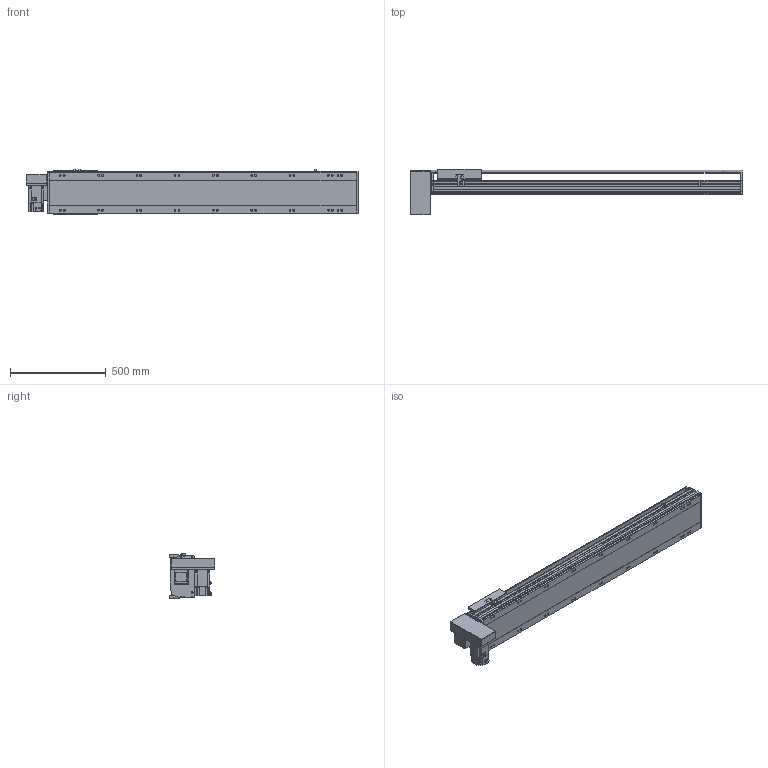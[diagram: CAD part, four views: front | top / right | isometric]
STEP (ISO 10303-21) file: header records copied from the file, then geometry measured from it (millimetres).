
FILE_DESCRIPTION(/* description */ ('STEP AP214'),/* implementation_level */ '2;1');
FILE_NAME(/* name */ 'PBS220-P40-S1250-RD-T75-C1-N(0)',/* time_stamp */ '2022-06-13T02:43:12+02:00',/* author */ ('License CC BY-ND 4.0'),/* organization */ ('CADENAS'),/* preprocessor_version */ 'ST-DEVELOPER v18.102',/* originating_system */ 'PARTsolutions',/* authorisation */ ' ');
FILE_SCHEMA (('AUTOMOTIVE_DESIGN {1 0 10303 214 3 1 1}'));
Length unit declared in the file: millimetre
Products named in the file (7): PBS220-P40-S1250-RD-T75-C1-N(0); PBS220_sensor; PBS220_plant; PBS220_sliser; T75-p1; PBS220T-RD_motors; PBS220-S1250()_body
Assembly tree (8 placements, depth 2):
  PBS220-P40-S1250-RD-T75-C1-N(0)
    PBS220_sensor  x3
    PBS220_plant
    PBS220_sliser
    T75-p1
    PBS220T-RD_motors
    PBS220-S1250()_body
Bounding box: 1734 x 239 x 238.5 mm (x, y, z)
Volume: 24819032.7 mm3; surface area: 2388462.1 mm2
Topology: 8 solids, 8 shells, 926 faces, 2424 edges, 1576 vertices
Faces by surface type: plane 602, cylinder 282, cone 42
Full cylindrical faces by diameter (mm): 2.013 x4, 4.5 x14, 4.917 x4, 6 x7, 6.647 x8, 8 x10, 8.376 x18, 8.5 x18, 10 x6, 14 x18, 38 x2, 40 x1, 70 x1
Entity records: 25941 total; most frequent: CARTESIAN_POINT 4558, DIRECTION 4509, ORIENTED_EDGE 4142, EDGE_CURVE 2071, AXIS2_PLACEMENT_3D 1581, VERTEX_POINT 1432, LINE 1347, VECTOR 1347
